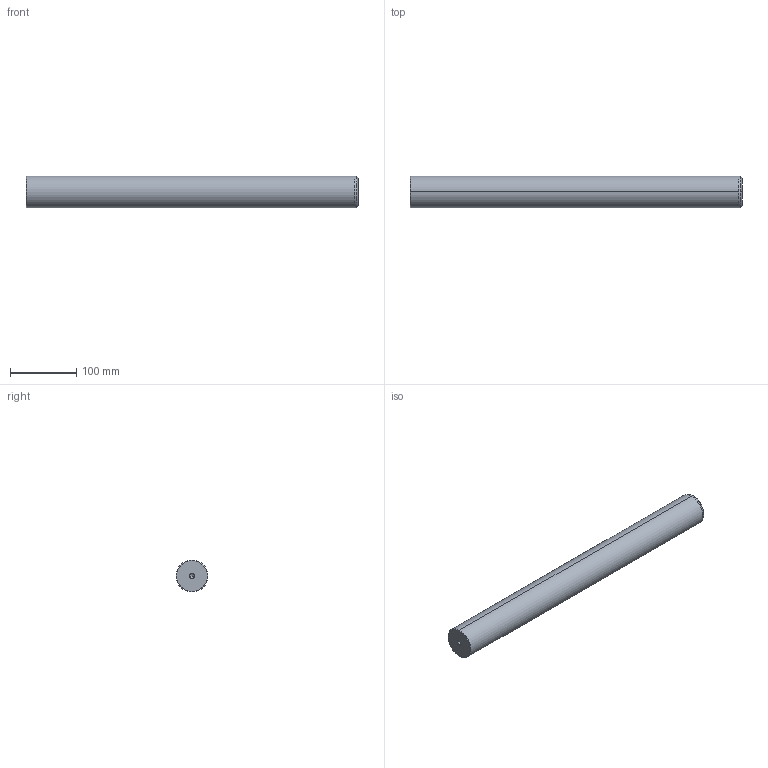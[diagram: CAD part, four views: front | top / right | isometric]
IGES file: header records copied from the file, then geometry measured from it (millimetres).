
Start section: START RECORD GO HERE.
Global section: file name: 720-48x500.igs; native system: DASSAULT SYSTEMES CATIA V5 R20 - www.3ds.com; preprocessor: CATIA Version 5 Release 20 ; author: Utente; organization: NB04-ASUS; date: 20201230.224505; units: millimetre
Bounding box: 500 x 48 x 48 mm (x, y, z)
Surface area: 79625.7 mm2 (no closed solid volume)
Topology: 0 solids, 0 shells, 22 faces, 120 edges, 116 vertices
Faces by surface type: revolution 20, plane 2
